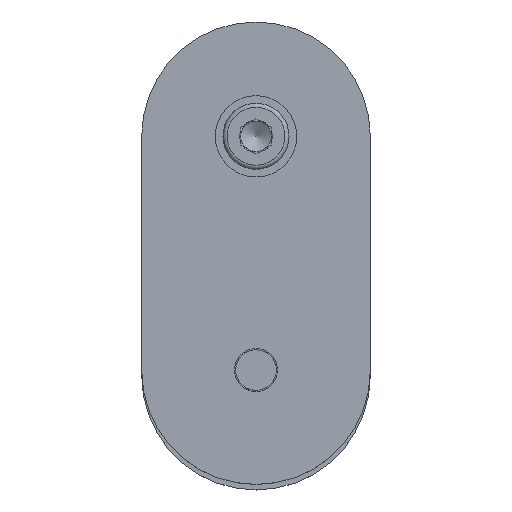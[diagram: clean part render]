
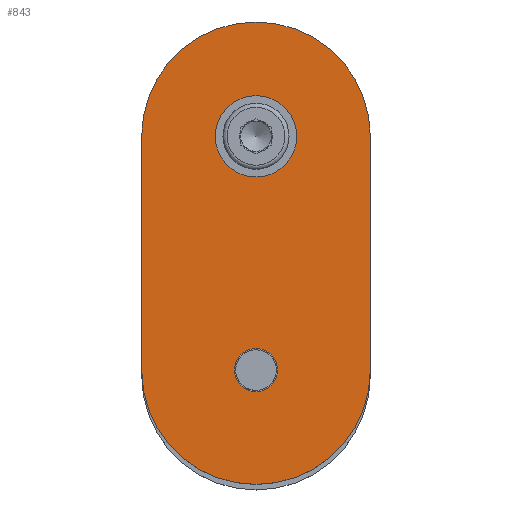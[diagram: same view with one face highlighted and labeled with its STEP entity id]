
A CAD part, top view. The second image highlights one B-rep face of the part: STEP entity #843.
In plain terms, the highlighted planar face has unit normal (0, 0, 1).
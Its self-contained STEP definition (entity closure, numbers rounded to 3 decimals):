
#48 = CARTESIAN_POINT ( 'NONE',  ( 0., -46., 8. ) ) ;
#72 = FACE_BOUND ( 'NONE', #367, .T. ) ;
#123 = DIRECTION ( 'NONE',  ( 0., 0., 1. ) ) ;
#129 = VERTEX_POINT ( 'NONE', #474 ) ;
#184 = VERTEX_POINT ( 'NONE', #1327 ) ;
#255 = VECTOR ( 'NONE', #1613, 1000. ) ;
#268 = DIRECTION ( 'NONE',  ( 0., 0., 1. ) ) ;
#346 = VERTEX_POINT ( 'NONE', #931 ) ;
#367 = EDGE_LOOP ( 'NONE', ( #1307 ) ) ;
#470 = EDGE_CURVE ( 'NONE', #346, #1136, #1298, .T. ) ;
#474 = CARTESIAN_POINT ( 'NONE',  ( 26.75, 0., 8. ) ) ;
#616 = EDGE_CURVE ( 'NONE', #129, #129, #1996, .T. ) ;
#668 = AXIS2_PLACEMENT_3D ( 'NONE', #1469, #2084, #1281 ) ;
#695 = AXIS2_PLACEMENT_3D ( 'NONE', #1850, #862, #1527 ) ;
#723 = FACE_OUTER_BOUND ( 'NONE', #785, .T. ) ;
#756 = ORIENTED_EDGE ( 'NONE', *, *, #1649, .T. ) ;
#782 = DIRECTION ( 'NONE',  ( -1., 0., 0. ) ) ;
#785 = EDGE_LOOP ( 'NONE', ( #756, #1226, #1003, #1606 ) ) ;
#805 = VERTEX_POINT ( 'NONE', #1543 ) ;
#816 = CARTESIAN_POINT ( 'NONE',  ( 0., 0., 8. ) ) ;
#843 = ADVANCED_FACE ( 'NONE', ( #1086, #723, #72 ), #1059, .T. ) ;
#862 = DIRECTION ( 'NONE',  ( 0., 0., 1. ) ) ;
#913 = AXIS2_PLACEMENT_3D ( 'NONE', #1593, #123, #782 ) ;
#931 = CARTESIAN_POINT ( 'NONE',  ( 45., -46., 8. ) ) ;
#967 = LINE ( 'NONE', #816, #1115 ) ;
#1003 = ORIENTED_EDGE ( 'NONE', *, *, #1227, .T. ) ;
#1059 = PLANE ( 'NONE',  #1112 ) ;
#1086 = FACE_BOUND ( 'NONE', #1747, .T. ) ;
#1112 = AXIS2_PLACEMENT_3D ( 'NONE', #1740, #268, #1134 ) ;
#1115 = VECTOR ( 'NONE', #1615, 1000. ) ;
#1134 = DIRECTION ( 'NONE',  ( 1., 0., 0. ) ) ;
#1136 = VERTEX_POINT ( 'NONE', #1218 ) ;
#1195 = CARTESIAN_POINT ( 'NONE',  ( 22.5, -46., 8. ) ) ;
#1218 = CARTESIAN_POINT ( 'NONE',  ( 45., 0., 8. ) ) ;
#1219 = AXIS2_PLACEMENT_3D ( 'NONE', #1195, #1851, #1993 ) ;
#1226 = ORIENTED_EDGE ( 'NONE', *, *, #470, .T. ) ;
#1227 = EDGE_CURVE ( 'NONE', #1136, #805, #1662, .T. ) ;
#1281 = DIRECTION ( 'NONE',  ( 1., 0., 0. ) ) ;
#1298 = LINE ( 'NONE', #1640, #255 ) ;
#1307 = ORIENTED_EDGE ( 'NONE', *, *, #1857, .F. ) ;
#1324 = EDGE_CURVE ( 'NONE', #805, #1832, #967, .T. ) ;
#1327 = CARTESIAN_POINT ( 'NONE',  ( 26.75, -46., 8. ) ) ;
#1432 = ORIENTED_EDGE ( 'NONE', *, *, #616, .F. ) ;
#1469 = CARTESIAN_POINT ( 'NONE',  ( 22.5, -46., 8. ) ) ;
#1499 = CIRCLE ( 'NONE', #668, 22.5 ) ;
#1527 = DIRECTION ( 'NONE',  ( 1., 0., 0. ) ) ;
#1543 = CARTESIAN_POINT ( 'NONE',  ( 0., 0., 8. ) ) ;
#1593 = CARTESIAN_POINT ( 'NONE',  ( 22.5, 0., 8. ) ) ;
#1606 = ORIENTED_EDGE ( 'NONE', *, *, #1324, .T. ) ;
#1613 = DIRECTION ( 'NONE',  ( 0., 1., 0. ) ) ;
#1615 = DIRECTION ( 'NONE',  ( 0., -1., 0. ) ) ;
#1640 = CARTESIAN_POINT ( 'NONE',  ( 45., 0., 8. ) ) ;
#1649 = EDGE_CURVE ( 'NONE', #1832, #346, #1499, .T. ) ;
#1662 = CIRCLE ( 'NONE', #913, 22.5 ) ;
#1740 = CARTESIAN_POINT ( 'NONE',  ( 22.5, -46., 8. ) ) ;
#1747 = EDGE_LOOP ( 'NONE', ( #1432 ) ) ;
#1832 = VERTEX_POINT ( 'NONE', #48 ) ;
#1850 = CARTESIAN_POINT ( 'NONE',  ( 22.5, 0., 8. ) ) ;
#1851 = DIRECTION ( 'NONE',  ( 0., 0., 1. ) ) ;
#1857 = EDGE_CURVE ( 'NONE', #184, #184, #1969, .T. ) ;
#1969 = CIRCLE ( 'NONE', #1219, 4.25 ) ;
#1993 = DIRECTION ( 'NONE',  ( 1., 0., 0. ) ) ;
#1996 = CIRCLE ( 'NONE', #695, 4.25 ) ;
#2084 = DIRECTION ( 'NONE',  ( 0., 0., 1. ) ) ;
